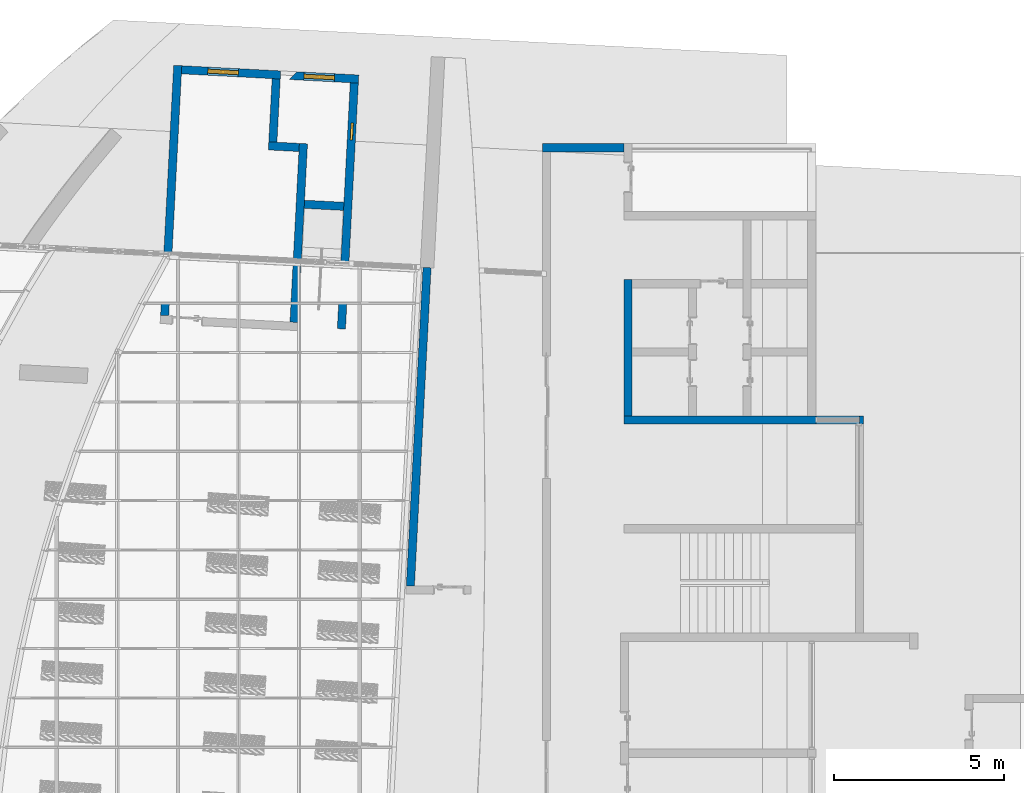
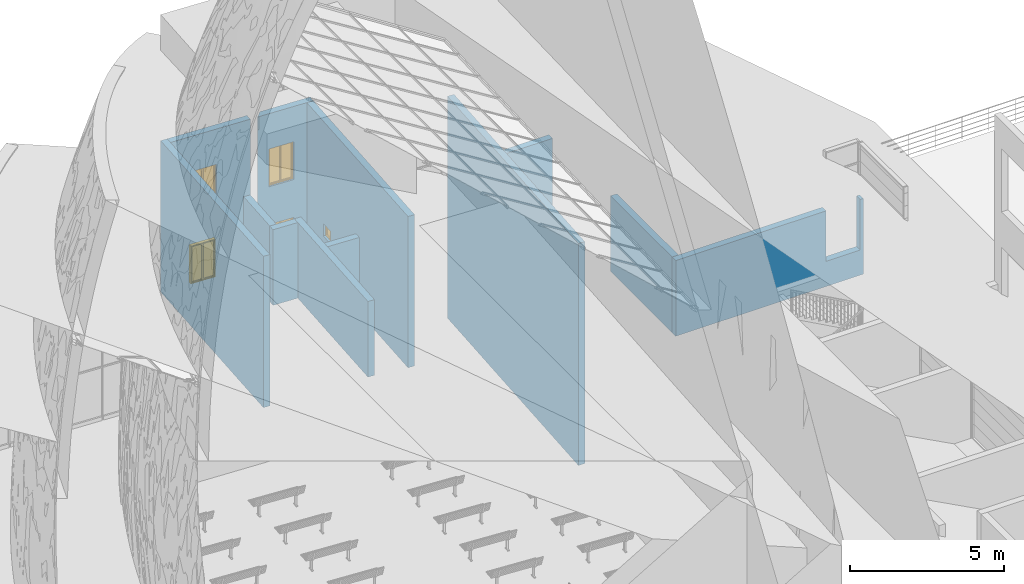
"""IFC2X3 building model written with IfcOpenShell, lengths in millimetres."""

from ifc_helpers import new_model, entity, si_unit, converted_unit, derived_unit, direction, frame, frame_2d, origin, place, context, subcontext, project, spatial, polyline, rectangle, outline, extrude, source, transform, mapped, material, material_list, layer, layer_set, layer_usage, type_object, type_shapes, element, fill, save


model = new_model("IFC2X3")

# Units and contexts
model_context = context("Model", 3, precision=0.01, world=origin(), true_north=direction((6.12303176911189e-17, 1.0)))
body_context = subcontext(model_context, "Body", "Model", "MODEL_VIEW")
ifc_project = project(units=[si_unit("LENGTHUNIT", "METRE", prefix="MILLI"), si_unit("AREAUNIT", "SQUARE_METRE"), si_unit("VOLUMEUNIT", "CUBIC_METRE"), converted_unit("PLANEANGLEUNIT", "DEGREE", entity("IfcRatioMeasure", 0.0174532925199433), si_unit("PLANEANGLEUNIT", "RADIAN"), dimensions=[0, 0, 0, 0, 0, 0, 0]), si_unit("MASSUNIT", "GRAM", prefix="KILO"), derived_unit("MASSDENSITYUNIT", [(si_unit("MASSUNIT", "GRAM", prefix="KILO"), 1), (si_unit("LENGTHUNIT", "METRE"), -3)]), si_unit("TIMEUNIT", "SECOND"), si_unit("FREQUENCYUNIT", "HERTZ"), si_unit("THERMODYNAMICTEMPERATUREUNIT", "DEGREE_CELSIUS"), derived_unit("THERMALTRANSMITTANCEUNIT", [(si_unit("MASSUNIT", "GRAM", prefix="KILO"), 1), (si_unit("THERMODYNAMICTEMPERATUREUNIT", "KELVIN"), -1), (si_unit("TIMEUNIT", "SECOND"), -3)]), derived_unit("VOLUMETRICFLOWRATEUNIT", [(si_unit("LENGTHUNIT", "METRE"), 3), (si_unit("TIMEUNIT", "SECOND"), -1)]), si_unit("ELECTRICCURRENTUNIT", "AMPERE"), si_unit("ELECTRICVOLTAGEUNIT", "VOLT"), si_unit("POWERUNIT", "WATT"), si_unit("FORCEUNIT", "NEWTON", prefix="KILO"), si_unit("ILLUMINANCEUNIT", "LUX"), si_unit("LUMINOUSFLUXUNIT", "LUMEN"), si_unit("LUMINOUSINTENSITYUNIT", "CANDELA"), derived_unit("USERDEFINED", [(si_unit("MASSUNIT", "GRAM", prefix="KILO"), -1), (si_unit("LENGTHUNIT", "METRE"), -2), (si_unit("TIMEUNIT", "SECOND"), 3), (si_unit("LUMINOUSFLUXUNIT", "LUMEN"), 1)]), derived_unit("LINEARVELOCITYUNIT", [(si_unit("LENGTHUNIT", "METRE"), 1), (si_unit("TIMEUNIT", "SECOND"), -1)]), si_unit("PRESSUREUNIT", "PASCAL"), derived_unit("USERDEFINED", [(si_unit("LENGTHUNIT", "METRE"), -2), (si_unit("MASSUNIT", "GRAM", prefix="KILO"), 1), (si_unit("TIMEUNIT", "SECOND"), -2)])], contexts=[model_context])

# Site, building, storey
site_placement = place(None, origin())
site = spatial("IfcSite", under=ifc_project, at=site_placement, Name="表面", CompositionType="ELEMENT")
building_placement = place(site_placement, origin())
building = spatial("IfcBuilding", under=site, at=building_placement, CompositionType="ELEMENT")
storey_1_placement = place(building_placement, origin())
storey_1 = spatial("IfcBuildingStorey", under=building, at=storey_1_placement, Name="1F", CompositionType="ELEMENT", Elevation=0.0)

# Wall
ifc_material_1 = material(Name="白色涂料")
ifc_layer_1 = layer(ifc_material_1, 10.0)
ifc_material_2 = material(Name="默认墙")
ifc_layer_2 = layer(ifc_material_2, 220.0)
ifc_layer_3 = layer(ifc_material_1, 10.0)
ifc_layer_set = layer_set([ifc_layer_1, ifc_layer_2, ifc_layer_3], Name="基本墙:粉刷墙240")
ifc_layer_usage_1 = layer_usage(ifc_layer_set, "AXIS2", "NEGATIVE", 120.0)
wall_type = type_object("IfcWallType", Name="基本墙:粉刷墙240", PredefinedType="STANDARD", material=ifc_layer_set)
wall_1_placement = place(storey_1_placement, frame((-25659.0244498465, 631.500809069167, 0.0), z_axis=(0.0, 0.0, 1.0), x_axis=(0.0523359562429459, 0.998629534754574, 0.0)))
element("IfcWallStandardCase", 1, at=wall_1_placement, inside=storey_1, type_object=wall_type, material=ifc_layer_usage_1, Name="基本墙:粉刷墙240", ObjectType="基本墙:粉刷墙240", context=body_context, shape_type="SweptSolid", body=[
    extrude(rectangle(XDim=7360.0, YDim=239.999999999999, at=frame_2d((3800.0, 1.25055521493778e-12), x_axis=(-1.0, 0.0))), origin(), (0.0, 0.0, 1.0), 6000.00000000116),
])

# Wall, openings, window
ifc_layer_usage_2 = layer_usage(ifc_layer_set, "AXIS2", "NEGATIVE", 120.0)
wall_2_placement = place(storey_1_placement, frame((-25153.9962677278, 7975.13387011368, 0.0), z_axis=(0.0, 0.0, 1.0), x_axis=(0.998629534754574, -0.0523359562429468, 0.0)))
wall_2 = element("IfcWallStandardCase", 2, at=wall_2_placement, inside=storey_1, type_object=wall_type, material=ifc_layer_usage_2, Name="基本墙:粉刷墙240", ObjectType="基本墙:粉刷墙240", context=body_context, shape_type="SweptSolid", body=[
    extrude(rectangle(XDim=2910.00000000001, YDim=239.999999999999, at=frame_2d((1455.0, -4.2632564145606e-13), x_axis=(-1.0, 0.0))), origin(), (0.0, 0.0, 1.0), 6000.00000000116),
])
opening_1_placement = place(wall_2_placement, origin())
element("IfcOpeningElement", 3, at=opening_1_placement, cuts=wall_2, Name="基本墙:粉刷墙240", ObjectType="Opening", context=body_context, shape_type="SweptSolid", body=[
    extrude(rectangle(XDim=499.999999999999, YDim=240.000000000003, at=frame_2d((-3.90798504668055e-13, 0.0), x_axis=(0.0, 1.0))), frame((2949.83527090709, -542.743898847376, 5732.78823263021), z_axis=(0.669130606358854, 0.743144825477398, 0.0), x_axis=(0.743144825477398, -0.669130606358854, 0.0)), (0.0, 0.0, 1.0), 499.999999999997),
])
opening_2_placement = place(wall_2_placement, frame((1670.0, 120.0, 100.0)))
opening_2 = element("IfcOpeningElement", 4, at=opening_2_placement, cuts=wall_2, Name="C0915:C0915:1", ObjectType="Opening", context=body_context, shape_type="SweptSolid", body=[
    extrude(rectangle(XDim=1500.0, YDim=900.0, at=frame_2d((750.0, 450.000000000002), x_axis=(1.0, 0.0))), frame((0.0, 0.0, 0.0), z_axis=(0.0, -1.0, 0.0), x_axis=(0.0, 0.0, 1.0)), (0.0, 0.0, 1.0), 240.0),
])
opening_3_placement = place(wall_2_placement, frame((1670.0, 120.0, 3100.0)))
opening_3 = element("IfcOpeningElement", 5, at=opening_3_placement, cuts=wall_2, Name="C0915:C0915:1", ObjectType="Opening", context=body_context, shape_type="SweptSolid", body=[
    extrude(rectangle(XDim=1500.0, YDim=900.0, at=frame_2d((750.0, 450.000000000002), x_axis=(1.0, 0.0))), frame((0.0, 0.0, 0.0), z_axis=(0.0, -1.0, 0.0), x_axis=(0.0, 0.0, 1.0)), (0.0, 0.0, 1.0), 240.0),
])
ifc_material_3 = material(Name="玻璃")
ifc_material_4 = material(Name="竖梃")
ifc_material_list_1 = material_list([ifc_material_3, ifc_material_4])
ifc_material_list_2 = material_list([ifc_material_3, ifc_material_4])
window_style_1 = type_object("IfcWindowStyle", Name="C0915", ConstructionType="NOTDEFINED", OperationType="NOTDEFINED", ParameterTakesPrecedence=False, Sizeable=False, material=ifc_material_list_2)
shared_shape_1 = source(origin(), body_context, "Body", "SweptSolid", [
    extrude(rectangle(XDim=20.0, YDim=375.0, at=frame_2d((-8.88178419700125e-16, 0.0), x_axis=(1.0, 0.0))), frame((662.5, 120.0, 50.0), z_axis=(0.0, 0.0, 1.0), x_axis=(0.0, -1.0, 0.0)), (0.0, 0.0, 1.0), 1400.0),
    extrude(rectangle(XDim=374.999999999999, YDim=20.0, at=frame_2d((4.2632564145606e-14, 0.0), x_axis=(1.0, 0.0))), frame((237.5, 120.0, 50.0), z_axis=(0.0, 0.0, 1.0), x_axis=(-1.0, 0.0, 0.0)), (0.0, 0.0, 1.0), 1400.0),
    extrude(outline(polyline([(-725.0, -212.5), (725.0, -212.5), (725.0, 212.5), (-725.0, 212.5), (-725.0, -212.5)]), holes=[polyline([(700.0, -187.5), (-700.0, -187.5), (-700.0, 187.5), (700.0, 187.499999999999), (700.0, -187.5)])]), frame((662.5, 80.0, 750.0), z_axis=(0.0, 1.0, 0.0), x_axis=(0.0, 0.0, 1.0)), (0.0, 0.0, 1.0), 80.0),
    extrude(outline(polyline([(-725.0, -212.499999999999), (725.0, -212.499999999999), (725.0, 212.499999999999), (-725.0, 212.5), (-725.0, -212.499999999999)]), holes=[polyline([(700.0, -187.499999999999), (-700.0, -187.499999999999), (-700.0, 187.499999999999), (700.0, 187.499999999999), (700.0, -187.499999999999)])]), frame((237.5, 80.0, 750.0), z_axis=(0.0, 1.0, 0.0), x_axis=(0.0, 0.0, -1.0)), (0.0, 0.0, 1.0), 80.0),
    extrude(outline(polyline([(-750.0, -450.0), (750.0, -450.0), (750.0, 450.0), (-750.0, 450.0), (-750.0, -450.0)]), holes=[polyline([(725.0, -425.0), (-725.0, -425.0), (-725.0, 425.0), (725.0, 425.0), (725.0, -425.0)])]), frame((450.0, 60.0, 750.0), z_axis=(0.0, 1.0, 0.0), x_axis=(0.0, 0.0, -1.0)), (0.0, 0.0, 1.0), 120.0),
])
type_shapes(window_style_1, [shared_shape_1])
window_1_placement = place(opening_2_placement, frame((0.0, 0.0, 0.0), z_axis=(0.0, 0.0, 1.0), x_axis=(-1.0, 0.0, 0.0)))
window_1 = element("IfcWindow", 6, at=window_1_placement, inside=storey_1, type_object=window_style_1, material=ifc_material_list_1, Name="C0915:C0915", ObjectType="C0915", OverallHeight=1500.0, OverallWidth=899.999999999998, context=body_context, shape_type="MappedRepresentation", body=[
    mapped(shared_shape_1, transform((0.0, 0.0, 0.0), scale=1.0)),
])
fill(opening_2, window_1)

# Storey
storey_2_placement = place(building_placement, frame((0.0, 0.0, 3000.0)))
storey_2 = spatial("IfcBuildingStorey", under=building, at=storey_2_placement, Name="2F", CompositionType="ELEMENT", Elevation=3000.00000000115)

# Window
ifc_material_list_3 = material_list([ifc_material_3, ifc_material_4])
window_2_placement = place(opening_3_placement, frame((0.0, 0.0, 0.0), z_axis=(0.0, 0.0, 1.0), x_axis=(-1.0, 0.0, 0.0)))
window_2 = element("IfcWindow", 7, at=window_2_placement, inside=storey_2, type_object=window_style_1, material=ifc_material_list_3, Name="C0915:C0915", ObjectType="C0915", OverallHeight=1500.0, OverallWidth=899.999999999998, context=body_context, shape_type="MappedRepresentation", body=[
    mapped(shared_shape_1, transform((0.0, 0.0, 0.0), scale=1.0)),
])

fill(opening_3, window_2)

# Wall, opening, window
ifc_layer_usage_3 = layer_usage(ifc_layer_set, "AXIS2", "NEGATIVE", 120.0)
wall_3_placement = place(storey_1_placement, frame((-20077.2522505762, 7588.90830866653, 0.0), z_axis=(0.0, 0.0, 1.0), x_axis=(-0.0523359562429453, -0.998629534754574, 0.0)))
wall_3 = element("IfcWallStandardCase", 8, at=wall_3_placement, inside=storey_1, type_object=wall_type, material=ifc_layer_usage_3, Name="基本墙:粉刷墙240", ObjectType="基本墙:粉刷墙240", context=body_context, shape_type="SweptSolid", body=[
    extrude(rectangle(XDim=7240.0, YDim=240.0, at=frame_2d((3620.0, -4.9737991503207e-13), x_axis=(-1.0, 0.0))), origin(), (0.0, 0.0, 1.0), 6000.00000000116),
])
opening_4_placement = place(wall_3_placement, frame((1180.0, -120.0, 1450.0)))
opening_4 = element("IfcOpeningElement", 9, at=opening_4_placement, cuts=wall_3, Name="C0615:C0505:1", ObjectType="Opening", context=body_context, shape_type="SweptSolid", body=[
    extrude(rectangle(XDim=499.999999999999, YDim=500.0, at=frame_2d((249.999999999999, 250.0), x_axis=(1.0, 0.0))), frame((0.0, 0.0, 0.0), z_axis=(0.0, 1.0, 0.0), x_axis=(0.0, 0.0, 1.0)), (0.0, 0.0, 1.0), 240.0),
])
ifc_material_list_4 = material_list([ifc_material_4, ifc_material_3])
ifc_material_list_5 = material_list([ifc_material_4, ifc_material_3])
window_style_2 = type_object("IfcWindowStyle", Name="C0505", ConstructionType="NOTDEFINED", OperationType="NOTDEFINED", ParameterTakesPrecedence=False, Sizeable=False, material=ifc_material_list_5)
shared_shape_2 = source(origin(), body_context, "Body", "SweptSolid", [
    extrude(outline(polyline([(-250.0, -250.0), (250.0, -250.0), (250.0, 250.0), (-250.0, 250.0), (-250.0, -250.0)]), holes=[polyline([(190.0, -190.0), (-190.0, -190.0), (-190.0, 190.0), (190.0, 190.0), (190.0, -190.0)])]), frame((250.0, 86.6666666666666, 250.0), z_axis=(0.0, 1.0, 0.0), x_axis=(0.0, 0.0, -1.0)), (0.0, 0.0, 1.0), 66.6666666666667),
    extrude(rectangle(XDim=27.7162458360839, YDim=379.999999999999, at=frame_2d((0.0, -1.4210854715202e-14), x_axis=(1.0, 0.0))), frame((250.0, 142.490721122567, 60.0), z_axis=(0.0, 0.0, 1.0), x_axis=(0.0, 1.0, 0.0)), (0.0, 0.0, 1.0), 379.999999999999),
])
type_shapes(window_style_2, [shared_shape_2])
window_3_placement = place(opening_4_placement, origin())
window_3 = element("IfcWindow", 10, at=window_3_placement, inside=storey_1, type_object=window_style_2, material=ifc_material_list_4, Name="C0615:C0505", ObjectType="C0505", OverallHeight=499.999999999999, OverallWidth=500.0, context=body_context, shape_type="MappedRepresentation", body=[
    mapped(shared_shape_2, transform((0.0, 0.0, 0.0), scale=1.0)),
])
fill(opening_4, window_3)

# Walls
ifc_layer_usage_4 = layer_usage(ifc_layer_set, "AXIS2", "NEGATIVE", 120.0)
wall_4_placement = place(storey_1_placement, frame((-21847.9656076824, 551.936359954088, 0.0), z_axis=(0.0, 0.0, 1.0), x_axis=(0.0523359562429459, 0.998629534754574, 0.0)))
element("IfcWallStandardCase", 11, at=wall_4_placement, inside=storey_1, type_object=wall_type, material=ifc_layer_usage_4, Name="基本墙:粉刷墙240", ObjectType="基本墙:粉刷墙240", context=body_context, shape_type="SweptSolid", body=[
    extrude(rectangle(XDim=5260.0, YDim=240.0, at=frame_2d((2630.0, 7.8159700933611e-14), x_axis=(-1.0, 0.0))), origin(), (0.0, 0.0, 1.0), 3000.00000000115),
])
ifc_layer_usage_5 = layer_usage(ifc_layer_set, "AXIS2", "NEGATIVE", 120.0)
wall_5_placement = place(storey_1_placement, frame((-21698.7943367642, 5691.17248334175, 0.0), z_axis=(0.0, 0.0, 1.0), x_axis=(-0.998629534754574, 0.0523359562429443, 0.0)))
element("IfcWallStandardCase", 12, at=wall_5_placement, inside=storey_1, type_object=wall_type, material=ifc_layer_usage_5, Name="基本墙:粉刷墙240", ObjectType="基本墙:粉刷墙240", context=body_context, shape_type="SweptSolid", body=[
    extrude(rectangle(XDim=899.999999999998, YDim=239.999999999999, at=frame_2d((449.999999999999, 4.2632564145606e-14), x_axis=(-1.0, 0.0))), origin(), (0.0, 0.0, 1.0), 3000.00000000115),
])
ifc_layer_usage_6 = layer_usage(ifc_layer_set, "AXIS2", "NEGATIVE", 120.0)
wall_6_placement = place(storey_1_placement, frame((-22471.4450591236, 5851.8300733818, 0.0), z_axis=(0.0, 0.0, 1.0), x_axis=(0.052335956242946, 0.998629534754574, 0.0)))
element("IfcWallStandardCase", 13, at=wall_6_placement, inside=storey_1, type_object=wall_type, material=ifc_layer_usage_6, Name="基本墙:粉刷墙240", ObjectType="基本墙:粉刷墙240", context=body_context, shape_type="SweptSolid", body=[
    extrude(rectangle(XDim=1860.0, YDim=240.0, at=frame_2d((930.000000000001, -1.19371179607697e-12), x_axis=(-1.0, 0.0))), origin(), (0.0, 0.0, 1.0), 3000.00000000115),
])
ifc_layer_usage_7 = layer_usage(ifc_layer_set, "AXIS2", "NEGATIVE", 120.0)
wall_7_placement = place(storey_1_placement, frame((-21546.0009357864, 4020.88682615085, 0.0), z_axis=(0.0, 0.0, 1.0), x_axis=(0.998629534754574, -0.0523359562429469, 0.0)))
element("IfcWallStandardCase", 14, at=wall_7_placement, inside=storey_1, type_object=wall_type, material=ifc_layer_usage_7, Name="基本墙:粉刷墙240", ObjectType="基本墙:粉刷墙240", context=body_context, shape_type="SweptSolid", body=[
    extrude(rectangle(XDim=1160.0, YDim=239.999999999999, at=frame_2d((580.000000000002, 2.1316282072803e-14), x_axis=(-1.0, 0.0))), origin(), (0.0, 0.0, 1.0), 3000.00000000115),
])

# Wall, opening
ifc_layer_usage_8 = layer_usage(ifc_layer_set, "AXIS2", "NEGATIVE", 120.0)
wall_8_placement = place(storey_1_placement, frame((-5110.24991264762, -2316.868426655, 0.0), z_axis=(0.0, 0.0, 1.0), x_axis=(-1.0, 0.0, 0.0)))
wall_8 = element("IfcWallStandardCase", 15, at=wall_8_placement, inside=storey_1, type_object=wall_type, material=ifc_layer_usage_8, Name="基本墙:粉刷墙240", ObjectType="基本墙:粉刷墙240", context=body_context, shape_type="SweptSolid", body=[
    extrude(rectangle(XDim=7040.00000000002, YDim=240.0, at=frame_2d((3520.00000000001, 7.8159700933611e-14), x_axis=(-1.0, 0.0))), origin(), (0.0, 0.0, 1.0), 3000.00000000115),
])
opening_5_placement = place(wall_8_placement, origin())
element("IfcOpeningElement", 16, at=opening_5_placement, cuts=wall_8, Name="基本墙:粉刷墙240", ObjectType="Opening", context=body_context, shape_type="SweptSolid", body=[
    extrude(rectangle(XDim=4300.0, YDim=1280.00000000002, at=frame_2d((-5.6843418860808e-13, 0.0), x_axis=(0.0, 1.0))), frame((760.0, -272.4, 3150.0), z_axis=(0.0, 1.0, 0.0), x_axis=(-1.0, 0.0, 0.0)), (0.0, 0.0, 1.0), 544.8),
])

# Walls
ifc_layer_usage_9 = layer_usage(ifc_layer_set, "AXIS2", "NEGATIVE", 120.0)
wall_9_placement = place(storey_1_placement, frame((-12030.2499126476, -2196.86842665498, 0.0), z_axis=(0.0, 0.0, 1.0), x_axis=(0.0, 1.0, 0.0)))
element("IfcWallStandardCase", 17, at=wall_9_placement, inside=storey_1, type_object=wall_type, material=ifc_layer_usage_9, Name="基本墙:粉刷墙240", ObjectType="基本墙:粉刷墙240", context=body_context, shape_type="SweptSolid", body=[
    extrude(rectangle(XDim=4000.0, YDim=240.000000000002, at=frame_2d((2000.0, 0.0), x_axis=(-1.0, 0.0))), origin(), (0.0, 0.0, 1.0), 3000.00000000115),
])
ifc_layer_usage_10 = layer_usage(ifc_layer_set, "AXIS2", "NEGATIVE", 120.0)
wall_10_placement = place(storey_1_placement, frame((-12150.2499126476, 5683.13157334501, 0.0), z_axis=(0.0, 0.0, 1.0), x_axis=(-1.0, 0.0, 0.0)))
element("IfcWallStandardCase", 18, at=wall_10_placement, inside=storey_1, type_object=wall_type, material=ifc_layer_usage_10, Name="基本墙:粉刷墙240", ObjectType="基本墙:粉刷墙240", context=body_context, shape_type="SweptSolid", body=[
    extrude(rectangle(XDim=2399.99999999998, YDim=240.0, at=frame_2d((1199.99999999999, 0.0), x_axis=(-1.0, 0.0))), origin(), (0.0, 0.0, 1.0), 3000.00000000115),
])
ifc_layer_usage_11 = layer_usage(ifc_layer_set, "AXIS2", "NEGATIVE", 120.0)
wall_11_placement = place(storey_1_placement, frame((-18435.1098304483, -7316.86842665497, 0.0), z_axis=(0.0, 0.0, 1.0), x_axis=(0.0523359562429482, 0.998629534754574, 0.0)))
element("IfcWallStandardCase", 19, at=wall_11_placement, inside=storey_1, type_object=wall_type, material=ifc_layer_usage_11, Name="基本墙:粉刷墙240", ObjectType="基本墙:粉刷墙240", context=body_context, shape_type="SweptSolid", body=[
    extrude(outline(polyline([(9489.40579250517, -120.0), (9489.40579250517, 120.0), (113.875748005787, 120.0), (126.453615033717, -120.0), (9489.40579250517, -120.0)])), origin(), (0.0, 0.0, 1.0), 8800.00000000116),
])

# Wall, openings, windows
ifc_layer_usage_12 = layer_usage(ifc_layer_set, "AXIS2", "NEGATIVE", 120.0)
wall_12_placement = place(storey_1_placement, frame((-21989.3396120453, 7809.28124259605, 0.0), z_axis=(0.0, 0.0, 1.0), x_axis=(0.998629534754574, -0.0523359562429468, 0.0)))
wall_12 = element("IfcWallStandardCase", 20, at=wall_12_placement, inside=storey_1, type_object=wall_type, material=ifc_layer_usage_12, Name="基本墙:粉刷墙240", ObjectType="基本墙:粉刷墙240", context=body_context, shape_type="SweptSolid", body=[
    extrude(outline(polyline([(2041.00034042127, -120.0), (2041.00034042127, 120.0), (216.096970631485, 120.0), (0.0, -120.0), (1801.00034042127, -120.0), (2041.00034042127, -120.0)])), origin(), (0.0, 0.0, 1.0), 6000.00000000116),
])
opening_6_placement = place(wall_12_placement, origin())
element("IfcOpeningElement", 21, at=opening_6_placement, cuts=wall_12, Name="基本墙:粉刷墙240", ObjectType="Opening", context=body_context, shape_type="SweptSolid", body=[
    extrude(rectangle(XDim=499.999999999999, YDim=240.000000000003, at=frame_2d((-3.90798504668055e-13, 0.0), x_axis=(0.0, 1.0))), frame((-219.164388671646, -542.743898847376, 5732.78823263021), z_axis=(0.669130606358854, 0.743144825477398, 0.0), x_axis=(0.743144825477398, -0.669130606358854, 0.0)), (0.0, 0.0, 1.0), 499.999999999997),
])
opening_7_placement = place(wall_12_placement, origin())
element("IfcOpeningElement", 22, at=opening_7_placement, cuts=wall_12, Name="基本墙:粉刷墙240", ObjectType="Opening", context=body_context, shape_type="SweptSolid", body=[
    extrude(rectangle(XDim=2300.0, YDim=239.999999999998, at=frame_2d((2.67874611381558e-12, 0.0), x_axis=(0.0, 1.0))), frame((-235.76455742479, -820.921302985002, 7150.0), z_axis=(0.669130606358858, 0.743144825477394, 0.0), x_axis=(-0.743144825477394, 0.669130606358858, 0.0)), (0.0, 0.0, 1.0), 900.000000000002),
])
opening_8_placement = place(wall_12_placement, frame((431.000340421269, -120.0, 100.0)))
opening_8 = element("IfcOpeningElement", 23, at=opening_8_placement, cuts=wall_12, Name="C0915:C0915:1", ObjectType="Opening", context=body_context, shape_type="SweptSolid", body=[
    extrude(rectangle(XDim=1500.0, YDim=900.0, at=frame_2d((750.0, 450.0), x_axis=(1.0, 0.0))), frame((0.0, 0.0, 0.0), z_axis=(0.0, 1.0, 0.0), x_axis=(0.0, 0.0, 1.0)), (0.0, 0.0, 1.0), 240.0),
])
opening_9_placement = place(wall_12_placement, frame((431.000340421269, -120.0, 3100.0)))
opening_9 = element("IfcOpeningElement", 24, at=opening_9_placement, cuts=wall_12, Name="C0915:C0915:1", ObjectType="Opening", context=body_context, shape_type="SweptSolid", body=[
    extrude(rectangle(XDim=1500.0, YDim=900.0, at=frame_2d((750.0, 450.0), x_axis=(1.0, 0.0))), frame((0.0, 0.0, 0.0), z_axis=(0.0, 1.0, 0.0), x_axis=(0.0, 0.0, 1.0)), (0.0, 0.0, 1.0), 240.0),
])
ifc_material_list_6 = material_list([ifc_material_3, ifc_material_4])
ifc_material_list_7 = material_list([ifc_material_3, ifc_material_4])
window_style_3 = type_object("IfcWindowStyle", Name="C0915", ConstructionType="NOTDEFINED", OperationType="NOTDEFINED", ParameterTakesPrecedence=False, Sizeable=False, material=ifc_material_list_7)
shared_shape_3 = source(origin(), body_context, "Body", "SweptSolid", [
    extrude(rectangle(XDim=20.0, YDim=375.0, at=frame_2d((-8.88178419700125e-16, 0.0), x_axis=(1.0, 0.0))), frame((662.5, 120.0, 50.0), z_axis=(0.0, 0.0, 1.0), x_axis=(0.0, -1.0, 0.0)), (0.0, 0.0, 1.0), 1400.0),
    extrude(rectangle(XDim=374.999999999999, YDim=20.0, at=frame_2d((4.2632564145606e-14, 0.0), x_axis=(1.0, 0.0))), frame((237.5, 120.0, 50.0), z_axis=(0.0, 0.0, 1.0), x_axis=(-1.0, 0.0, 0.0)), (0.0, 0.0, 1.0), 1400.0),
    extrude(outline(polyline([(-725.0, -212.5), (725.0, -212.5), (725.0, 212.5), (-725.0, 212.5), (-725.0, -212.5)]), holes=[polyline([(700.0, -187.5), (-700.0, -187.5), (-700.0, 187.5), (700.0, 187.499999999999), (700.0, -187.5)])]), frame((662.5, 80.0, 750.0), z_axis=(0.0, 1.0, 0.0), x_axis=(0.0, 0.0, 1.0)), (0.0, 0.0, 1.0), 80.0),
    extrude(outline(polyline([(-725.0, -212.499999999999), (725.0, -212.499999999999), (725.0, 212.499999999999), (-725.0, 212.5), (-725.0, -212.499999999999)]), holes=[polyline([(700.0, -187.499999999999), (-700.0, -187.499999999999), (-700.0, 187.499999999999), (700.0, 187.499999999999), (700.0, -187.499999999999)])]), frame((237.5, 80.0, 750.0), z_axis=(0.0, 1.0, 0.0), x_axis=(0.0, 0.0, -1.0)), (0.0, 0.0, 1.0), 80.0),
    extrude(outline(polyline([(-750.0, -450.0), (750.0, -450.0), (750.0, 450.0), (-750.0, 450.0), (-750.0, -450.0)]), holes=[polyline([(725.0, -425.0), (-725.0, -425.0), (-725.0, 425.0), (725.0, 425.0), (725.0, -425.0)])]), frame((450.0, 60.0, 750.0), z_axis=(0.0, 1.0, 0.0), x_axis=(0.0, 0.0, -1.0)), (0.0, 0.0, 1.0), 120.0),
])
type_shapes(window_style_3, [shared_shape_3])
window_4_placement = place(opening_8_placement, origin())
window_4 = element("IfcWindow", 25, at=window_4_placement, inside=storey_1, type_object=window_style_3, material=ifc_material_list_6, Name="C0915:C0915", ObjectType="C0915", OverallHeight=1500.0, OverallWidth=899.999999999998, context=body_context, shape_type="MappedRepresentation", body=[
    mapped(shared_shape_3, transform((0.0, 0.0, 0.0), scale=1.0)),
])
fill(opening_8, window_4)
ifc_material_list_8 = material_list([ifc_material_3, ifc_material_4])
window_5_placement = place(opening_9_placement, origin())
window_5 = element("IfcWindow", 26, at=window_5_placement, inside=storey_2, type_object=window_style_3, material=ifc_material_list_8, Name="C0915:C0915", ObjectType="C0915", OverallHeight=1500.0, OverallWidth=899.999999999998, context=body_context, shape_type="MappedRepresentation", body=[
    mapped(shared_shape_3, transform((0.0, 0.0, 0.0), scale=1.0)),
])
fill(opening_9, window_5)

save(model, "model.ifc")
